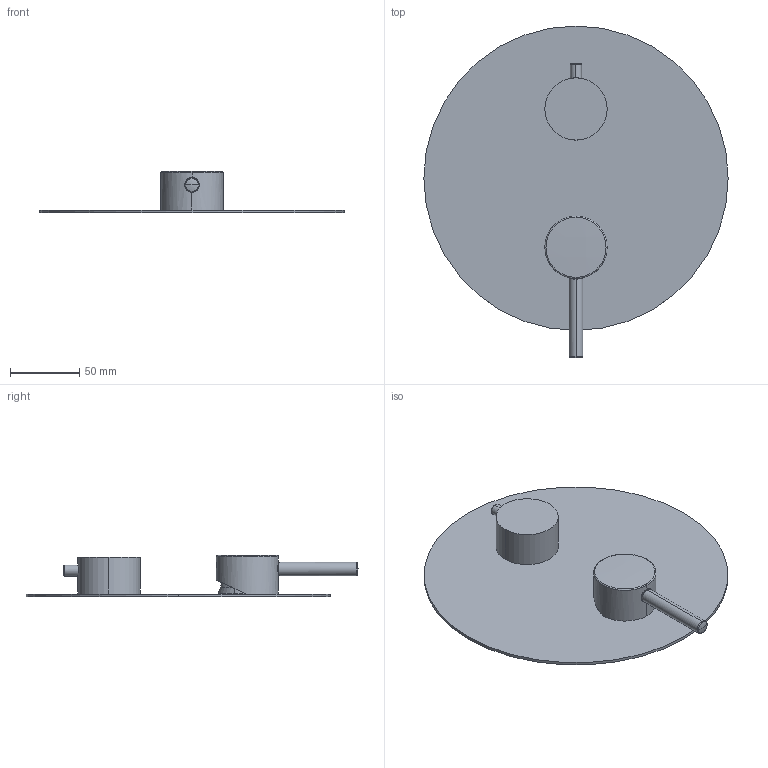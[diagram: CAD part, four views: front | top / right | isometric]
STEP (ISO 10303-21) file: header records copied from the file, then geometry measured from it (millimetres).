
FILE_DESCRIPTION (( 'STEP AP214' ), '1' );
FILE_NAME ('12226110 x architetti.STEP', '2025-04-05T08:27:30', ( '' ), ( '' ), 'SwSTEP 2.0', 'SolidWorks 2020', '' );
FILE_SCHEMA (( 'AUTOMOTIVE_DESIGN' ));
Length unit declared in the file: millimetre
Products named in the file (1): 12226110 x architetti
Bounding box: 220 x 240 x 30.14 mm (x, y, z)
Volume: 154210.2 mm3; surface area: 96240.2 mm2
Topology: 1 solids, 2 shells, 66 faces, 159 edges, 96 vertices
Faces by surface type: cylinder 27, plane 13, bspline 12, cone 6, torus 4, sphere 4
Entity records: 3438 total; most frequent: CARTESIAN_POINT 1316, ORIENTED_EDGE 310, DIRECTION 293, EDGE_CURVE 155, AXIS2_PLACEMENT_3D 125, VERTEX_POINT 96, EDGE_LOOP 73, CIRCLE 70
